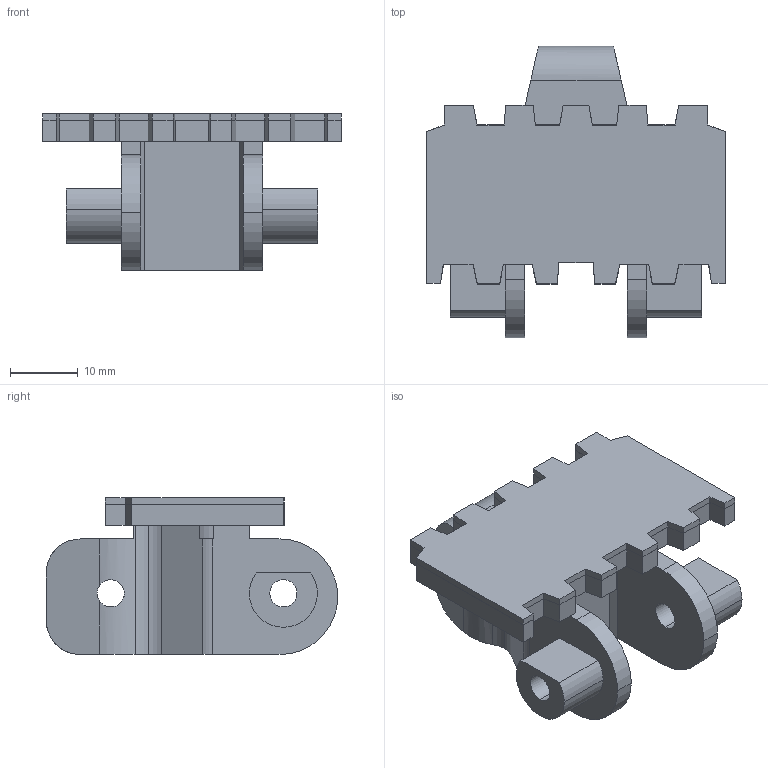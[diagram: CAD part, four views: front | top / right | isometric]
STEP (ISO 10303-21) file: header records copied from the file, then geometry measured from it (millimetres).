
FILE_DESCRIPTION (( 'STEP AP214' ), '1' );
FILE_NAME ('FKFC-5.STEP', '2011-07-06T11:04:10', ( '.' ), ( '' ), 'SwSTEP 2.0', 'SolidWorks 2010', '' );
FILE_SCHEMA (( 'AUTOMOTIVE_DESIGN' ));
Length unit declared in the file: millimetre
Products named in the file (1): FKFC-5
Bounding box: 44 x 42.9 x 23.1 mm (x, y, z)
Volume: 12629.4 mm3; surface area: 6772.6 mm2
Topology: 1 solids, 1 shells, 145 faces, 421 edges, 280 vertices
Faces by surface type: plane 116, cylinder 29
Entity records: 5350 total; most frequent: CARTESIAN_POINT 957, ORIENTED_EDGE 842, DIRECTION 751, EDGE_CURVE 421, LINE 359, VECTOR 359, VERTEX_POINT 280, AXIS2_PLACEMENT_3D 196
